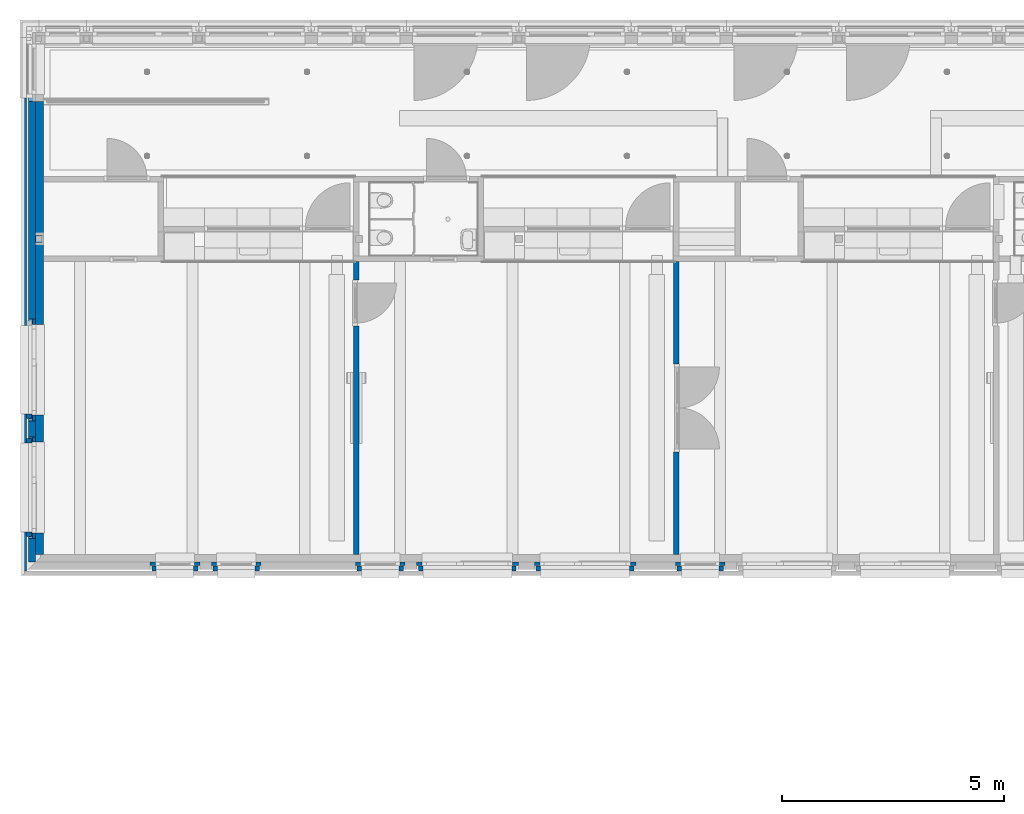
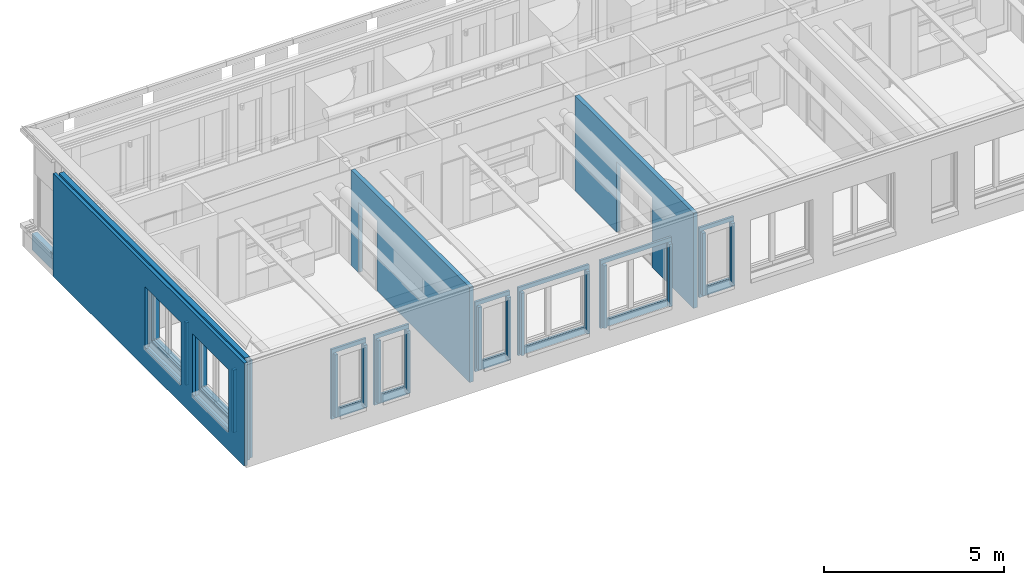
# One storey, part 44 of 128: 28 walls, 19 openings.
"""IFC2X3 building model written with IfcOpenShell, lengths in millimetres."""

import ifcopenshell
import ifcopenshell.guid

model = None  # the IFC model being written
_history = None  # IfcOwnerHistory: only IFC2X3 demands one
_inside = {}  # id of a spatial element -> (the spatial element, [elements in it])
_under = {}  # id of a project, library or spatial element -> (it, [spatial elements below it])
_declared = {}  # id of a project -> (the project, [libraries it declares])
_typed = {}  # id of a type object -> (the type object, [elements of that type])
_made_of = {}  # id of a material, layer set ... -> (it, [elements and type objects made of it])


def new_model(schema):
    """Start an empty IFC model of exactly this schema.

    Asked for "IFC4X3", IfcOpenShell would pick the latest addendum, in which some entities
    have other attributes; the version numbers below select the first issue.
    IFC2X3 requires an IfcOwnerHistory on every rooted entity: one is made here for all.
    """
    global model, _history
    if schema == "IFC4X3":
        model = ifcopenshell.file(schema_version=(4, 3, 0, 0))
    else:
        model = ifcopenshell.file(schema=schema)
    _inside.clear()
    _under.clear()
    _declared.clear()
    _typed.clear()
    _made_of.clear()
    _history = None
    if model.schema == "IFC2X3":
        org = make("IfcOrganization", Name="unknown")
        user = make(
            "IfcPersonAndOrganization",
            ThePerson=make("IfcPerson", FamilyName="unknown"),
            TheOrganization=org,
        )
        app = make(
            "IfcApplication",
            ApplicationDeveloper=org,
            Version="unknown",
            ApplicationFullName="unknown",
            ApplicationIdentifier="unknown",
        )
        _history = make(
            "IfcOwnerHistory",
            OwningUser=user,
            OwningApplication=app,
            ChangeAction="ADDED",
            CreationDate=0,
        )
    return model


def make(cls, **values):
    """One entity of the class cls with the attributes given. An attribute that is None is left unset."""
    return model.create_entity(
        cls, **{name: value for name, value in values.items() if value is not None}
    )


def entity(cls, *values):
    """Any entity or typed value of the class cls, its attributes in the order of the schema. None: left unset."""
    e = model.create_entity(cls)
    for i, value in enumerate(values):
        if value is not None:
            e[i] = value
    return e


def rooted(cls, **values):
    """An entity with a GlobalId (a new one), such as an element, a storey or a relation."""
    return make(cls, GlobalId=ifcopenshell.guid.new(), OwnerHistory=_history, **values)


def si_unit(unit_type, name, prefix=None):
    """IfcSIUnit, for example si_unit("LENGTHUNIT", "METRE", prefix="MILLI")."""
    return make("IfcSIUnit", UnitType=unit_type, Prefix=prefix, Name=name)


def converted_unit(unit_type, name, factor, base, dimensions=None, offset=None):
    """IfcConversionBasedUnit, such as the inch: factor (a typed value) times the base unit."""
    return make(
        "IfcConversionBasedUnit"
        if offset is None
        else "IfcConversionBasedUnitWithOffset",
        ConversionOffset=offset,
        Dimensions=None
        if dimensions is None
        else entity("IfcDimensionalExponents", *dimensions),
        UnitType=unit_type,
        Name=name,
        ConversionFactor=make(
            "IfcMeasureWithUnit", ValueComponent=factor, UnitComponent=base
        ),
    )


def derived_unit(unit_type, elements):
    """IfcDerivedUnit: a product of units, each with its exponent."""
    return make(
        "IfcDerivedUnit",
        Elements=[
            make("IfcDerivedUnitElement", Unit=unit, Exponent=power)
            for unit, power in elements
        ],
        UnitType=unit_type,
    )


def assignment(units):
    """IfcUnitAssignment: the units of a project."""
    return None if units is None else make("IfcUnitAssignment", Units=units)


def point(xyz):
    """IfcCartesianPoint."""
    return None if xyz is None else make("IfcCartesianPoint", Coordinates=xyz)


def direction(xyz):
    """IfcDirection."""
    return None if xyz is None else make("IfcDirection", DirectionRatios=xyz)


def frame(location, z_axis=None, x_axis=None):
    """IfcAxis2Placement3D, a coordinate frame: its origin and axes. An axis left out is left unset."""
    return make(
        "IfcAxis2Placement3D",
        Location=point(location),
        Axis=direction(z_axis),
        RefDirection=direction(x_axis),
    )


def frame_2d(location, x_axis=None):
    """IfcAxis2Placement2D, a coordinate frame in the plane: its origin and x axis."""
    return make(
        "IfcAxis2Placement2D", Location=point(location), RefDirection=direction(x_axis)
    )


def origin():
    """The frame at (0, 0, 0) with its axes left unset."""
    return frame((0.0, 0.0, 0.0))


def origin_2d_with_axis():
    """The frame at (0, 0) in the plane with the x axis (1, 0) written out."""
    return frame_2d((0.0, 0.0), x_axis=(1.0, 0.0))


def place(relative_to, where):
    """IfcLocalPlacement: puts the frame where relative to a parent placement (None: the world)."""
    return make(
        "IfcLocalPlacement", PlacementRelTo=relative_to, RelativePlacement=where
    )


def context(
    kind, dimensions, precision=None, world=None, true_north=None, identifier=None
):
    """IfcGeometricRepresentationContext, for example the 3D "Model" context."""
    return make(
        "IfcGeometricRepresentationContext",
        ContextIdentifier=identifier,
        ContextType=kind,
        CoordinateSpaceDimension=dimensions,
        Precision=precision,
        WorldCoordinateSystem=world,
        TrueNorth=true_north,
    )


def subcontext(parent, identifier, kind, view, scale=None):
    """IfcGeometricRepresentationSubContext, for example "Body" below "Model"."""
    return make(
        "IfcGeometricRepresentationSubContext",
        ContextIdentifier=identifier,
        ContextType=kind,
        ParentContext=parent,
        TargetScale=scale,
        TargetView=view,
    )


def project(units=None, contexts=None):
    """IfcProject with its units and contexts."""
    return rooted(
        "IfcProject",
        Name="project",
        RepresentationContexts=contexts,
        UnitsInContext=assignment(units),
    )


def spatial(cls, under=None, at=None, **own):
    """A site, building, storey or space (cls), placed at a placement, below another one or the project."""
    s = rooted(cls, ObjectPlacement=at, **own)
    if under is not None:
        _under.setdefault(under.id(), (under, []))[1].append(s)
    return s


def profile(cls, at=None, kind="AREA", **sizes):
    """A parametric profile (cls). Its sizes go by their IFC names, for example OverallWidth=200.0."""
    return make(cls, ProfileType=kind, Position=at, **sizes)


def rectangle(**sizes):
    """IfcRectangleProfileDef."""
    return profile("IfcRectangleProfileDef", **sizes)


def extrude(swept, where, along, depth):
    """IfcExtrudedAreaSolid: the profile swept, set in the frame where, extruded along a direction by depth."""
    return make(
        "IfcExtrudedAreaSolid",
        SweptArea=swept,
        Position=where,
        ExtrudedDirection=direction(along),
        Depth=depth,
    )


def shape(context_of_items, identifier, shape_type, items):
    """IfcShapeRepresentation: the items that make up one representation, for example the "Body"."""
    return make(
        "IfcShapeRepresentation",
        ContextOfItems=context_of_items,
        RepresentationIdentifier=identifier,
        RepresentationType=shape_type,
        Items=items,
    )


def material(Name=None, Category=None):
    """IfcMaterial."""
    return make("IfcMaterial", Name=Name, Category=Category)


def layer(
    of_material, thickness, ventilated=None, Name=None, Category=None, Priority=None
):
    """IfcMaterialLayer: one layer of a wall or slab, of a material (None: an air gap)."""
    return make(
        "IfcMaterialLayer",
        Material=of_material,
        LayerThickness=thickness,
        IsVentilated=ventilated,
        Name=Name,
        Category=Category,
        Priority=Priority,
    )


def layer_set(layers, Name=None):
    """IfcMaterialLayerSet."""
    return make("IfcMaterialLayerSet", MaterialLayers=layers, LayerSetName=Name)


def layer_usage(for_layer_set, set_direction, sense, offset, extent=None):
    """IfcMaterialLayerSetUsage: how a layer set lies in its element."""
    return make(
        "IfcMaterialLayerSetUsage",
        ForLayerSet=for_layer_set,
        LayerSetDirection=set_direction,
        DirectionSense=sense,
        OffsetFromReferenceLine=offset,
        ReferenceExtent=extent,
    )


def made_of(thing, what):
    """Note that an element or type object is made of a material, layer set ...; save() writes the relation."""
    if what is not None:
        _made_of.setdefault(what.id(), (what, []))[1].append(thing)
    return thing


def type_object(cls, material=None, **own):
    """A type object (cls), such as IfcWallType, which elements share."""
    return made_of(rooted(cls, **own), material)


def element(
    cls,
    number,
    at=None,
    inside=None,
    cuts=None,
    type_object=None,
    material=None,
    context=None,
    identifier="Body",
    shape_type=None,
    held_by="IfcProductDefinitionShape",
    body=None,
    shapes=None,
    **own,
):
    """One element of the class cls, such as IfcWall. Its Tag is "e" and its number.

    at: its placement. inside: the storey or other place that contains it. cuts: it is an
    opening in that element (IfcRelVoidsElement). A single representation is given by context,
    identifier, shape_type and body (its items); several are given by shapes. held_by: the class
    of the entity that holds the representations. save() writes the other relations.
    """
    e = rooted(cls, Tag="e%d" % number, ObjectPlacement=at, **own)
    if body is not None:
        shapes = [shape(context, identifier, shape_type, body)]
    if shapes is not None:
        e.Representation = make(held_by, Representations=shapes)
    if inside is not None:
        _inside.setdefault(inside.id(), (inside, []))[1].append(e)
    if cuts is not None:
        rooted(
            "IfcRelVoidsElement", RelatingBuildingElement=cuts, RelatedOpeningElement=e
        )
    if type_object is not None:
        _typed.setdefault(type_object.id(), (type_object, []))[1].append(e)
    return made_of(e, material)


def aggregate(whole, parts):
    """IfcRelAggregates: a whole, such as a stair, and the parts it consists of."""
    return rooted("IfcRelAggregates", RelatingObject=whole, RelatedObjects=parts)


def save(model, path):
    """Write the relations noted so far, then the file.

    IfcRelAggregates (storeys below a building ...), IfcRelContainedInSpatialStructure (elements
    in a storey), IfcRelDefinesByType, IfcRelAssociatesMaterial and IfcRelDeclares: one each for
    every whole, place, type object, material and project.
    """
    for whole, parts in _under.values():
        aggregate(whole, parts)
    for where, things in _inside.values():
        rooted(
            "IfcRelContainedInSpatialStructure",
            RelatedElements=things,
            RelatingStructure=where,
        )
    for kind, things in _typed.values():
        rooted("IfcRelDefinesByType", RelatedObjects=things, RelatingType=kind)
    for what, things in _made_of.values():
        rooted("IfcRelAssociatesMaterial", RelatedObjects=things, RelatingMaterial=what)
    for by, libraries in _declared.values():
        rooted("IfcRelDeclares", RelatingContext=by, RelatedDefinitions=libraries)
    model.write(path)


model = new_model("IFC2X3")

# Units and contexts
model_context = context("Model", 3, precision=0.01, world=origin(), true_north=direction((6.123031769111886e-17, 1.0)))
body_context = subcontext(model_context, "Body", "Model", "MODEL_VIEW")
ifc_project = project(units=[si_unit("LENGTHUNIT", "METRE", prefix="MILLI"), si_unit("AREAUNIT", "SQUARE_METRE"), si_unit("VOLUMEUNIT", "CUBIC_METRE"), converted_unit("PLANEANGLEUNIT", "DEGREE", entity("IfcRatioMeasure", 0.017453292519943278), si_unit("PLANEANGLEUNIT", "RADIAN"), dimensions=[0, 0, 0, 0, 0, 0, 0]), si_unit("MASSUNIT", "GRAM", prefix="KILO"), derived_unit("MASSDENSITYUNIT", [(si_unit("MASSUNIT", "GRAM", prefix="KILO"), 1), (si_unit("LENGTHUNIT", "METRE"), -3)]), derived_unit("IONCONCENTRATIONUNIT", [(si_unit("MASSUNIT", "GRAM", prefix="KILO"), 1), (si_unit("LENGTHUNIT", "METRE"), -3)]), derived_unit("MOMENTOFINERTIAUNIT", [(si_unit("LENGTHUNIT", "METRE"), 4)]), si_unit("TIMEUNIT", "SECOND"), si_unit("FREQUENCYUNIT", "HERTZ"), si_unit("THERMODYNAMICTEMPERATUREUNIT", "DEGREE_CELSIUS"), derived_unit("THERMALTRANSMITTANCEUNIT", [(si_unit("MASSUNIT", "GRAM", prefix="KILO"), 1), (si_unit("THERMODYNAMICTEMPERATUREUNIT", "KELVIN"), -1), (si_unit("TIMEUNIT", "SECOND"), -3)]), derived_unit("THERMALCONDUCTANCEUNIT", [(si_unit("MASSUNIT", "GRAM", prefix="KILO"), 1), (si_unit("THERMODYNAMICTEMPERATUREUNIT", "KELVIN"), -1), (si_unit("TIMEUNIT", "SECOND"), -3), (si_unit("LENGTHUNIT", "METRE"), 1)]), derived_unit("VOLUMETRICFLOWRATEUNIT", [(si_unit("LENGTHUNIT", "METRE"), 3), (si_unit("TIMEUNIT", "SECOND"), -1)]), derived_unit("MASSFLOWRATEUNIT", [(si_unit("MASSUNIT", "GRAM", prefix="KILO"), 1), (si_unit("TIMEUNIT", "SECOND"), -1)]), derived_unit("ROTATIONALFREQUENCYUNIT", [(si_unit("TIMEUNIT", "SECOND"), -1)]), si_unit("ELECTRICCURRENTUNIT", "AMPERE"), si_unit("ELECTRICVOLTAGEUNIT", "VOLT"), si_unit("POWERUNIT", "WATT"), si_unit("FORCEUNIT", "NEWTON", prefix="KILO"), si_unit("ILLUMINANCEUNIT", "LUX"), si_unit("LUMINOUSFLUXUNIT", "LUMEN"), si_unit("LUMINOUSINTENSITYUNIT", "CANDELA"), derived_unit("USERDEFINED", [(si_unit("MASSUNIT", "GRAM", prefix="KILO"), -1), (si_unit("LENGTHUNIT", "METRE"), -2), (si_unit("TIMEUNIT", "SECOND"), 3), (si_unit("LUMINOUSFLUXUNIT", "LUMEN"), 1)]), derived_unit("USERDEFINED", [(si_unit("MASSUNIT", "GRAM", prefix="KILO"), 1), (si_unit("TIMEUNIT", "SECOND"), -3), (si_unit("LENGTHUNIT", "METRE"), 3), (si_unit("ELECTRICCURRENTUNIT", "AMPERE"), -2)]), derived_unit("SOUNDPOWERUNIT", [(si_unit("MASSUNIT", "GRAM", prefix="KILO"), 1), (si_unit("TIMEUNIT", "SECOND"), -3), (si_unit("LENGTHUNIT", "METRE"), 2)]), derived_unit("SOUNDPRESSUREUNIT", [(si_unit("MASSUNIT", "GRAM", prefix="KILO"), 1), (si_unit("LENGTHUNIT", "METRE"), -1), (si_unit("TIMEUNIT", "SECOND"), -2)]), derived_unit("LINEARVELOCITYUNIT", [(si_unit("LENGTHUNIT", "METRE"), 1), (si_unit("TIMEUNIT", "SECOND"), -1)]), si_unit("PRESSUREUNIT", "PASCAL"), derived_unit("USERDEFINED", [(si_unit("MASSUNIT", "GRAM", prefix="KILO"), 1), (si_unit("LENGTHUNIT", "METRE"), -2), (si_unit("TIMEUNIT", "SECOND"), -2)]), derived_unit("LINEARFORCEUNIT", [(si_unit("MASSUNIT", "GRAM", prefix="KILO"), 1), (si_unit("TIMEUNIT", "SECOND"), -2)]), derived_unit("PLANARFORCEUNIT", [(si_unit("MASSUNIT", "GRAM", prefix="KILO"), 1), (si_unit("LENGTHUNIT", "METRE"), -1), (si_unit("TIMEUNIT", "SECOND"), -2)]), derived_unit("SPECIFICHEATCAPACITYUNIT", [(si_unit("THERMODYNAMICTEMPERATUREUNIT", "KELVIN"), -1), (si_unit("LENGTHUNIT", "METRE"), 2), (si_unit("TIMEUNIT", "SECOND"), -2)]), derived_unit("HEATINGVALUEUNIT", [(si_unit("LENGTHUNIT", "METRE"), 2), (si_unit("TIMEUNIT", "SECOND"), -2)]), derived_unit("VAPORPERMEABILITYUNIT", [(si_unit("LENGTHUNIT", "METRE"), -1), (si_unit("TIMEUNIT", "SECOND"), 1)]), derived_unit("DYNAMICVISCOSITYUNIT", [(si_unit("MASSUNIT", "GRAM", prefix="KILO"), 1), (si_unit("TIMEUNIT", "SECOND"), -1), (si_unit("LENGTHUNIT", "METRE"), -1)]), derived_unit("THERMALEXPANSIONCOEFFICIENTUNIT", [(si_unit("THERMODYNAMICTEMPERATUREUNIT", "KELVIN"), -1)]), derived_unit("MODULUSOFELASTICITYUNIT", [(si_unit("MASSUNIT", "GRAM", prefix="KILO"), 1), (si_unit("LENGTHUNIT", "METRE"), -1), (si_unit("TIMEUNIT", "SECOND"), -2)]), derived_unit("ISOTHERMALMOISTURECAPACITYUNIT", [(si_unit("LENGTHUNIT", "METRE"), 3), (si_unit("MASSUNIT", "GRAM", prefix="KILO"), -1)]), derived_unit("MOISTUREDIFFUSIVITYUNIT", [(si_unit("TIMEUNIT", "SECOND"), -1), (si_unit("LENGTHUNIT", "METRE"), 2)])], contexts=[model_context])

# Site, building, storey
site_placement = place(None, frame((0.0, 300.0, 0.0)))
site = spatial("IfcSite", under=ifc_project, at=site_placement, Name="<Kadastrale nummers>", CompositionType="ELEMENT")
building_placement = place(site_placement, origin())
building = spatial("IfcBuilding", under=site, at=building_placement, CompositionType="ELEMENT")
storey_placement = place(building_placement, frame((0.0, 0.0, 3560.0000331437)))
storey = spatial("IfcBuildingStorey", under=building, at=storey_placement, Name="01 eerste verdieping", CompositionType="ELEMENT", Elevation=3560.0000331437)

# Wall, openings
ifc_material_1 = material(Name="ISR_Metselwerk")
ifc_layer_1 = layer(ifc_material_1, 100.0)
ifc_layer_set_1 = layer_set([ifc_layer_1], Name="Basic Wall:21_DAT_metselwerk_100")
ifc_layer_usage_1 = layer_usage(ifc_layer_set_1, "AXIS2", "POSITIVE", -50.0)
wall_type_1 = type_object("IfcWallType", Name="Basic Wall:21_DAT_metselwerk_100", PredefinedType="STANDARD", material=ifc_layer_set_1)
wall_1_placement = place(storey_placement, frame((2675.0, 48465.0, 90.00000187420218), z_axis=(0.0, 0.0, 1.0), x_axis=(0.0, -1.0, 0.0)))
wall_1 = element("IfcWallStandardCase", 1, at=wall_1_placement, inside=storey, type_object=wall_type_1, material=ifc_layer_usage_1, Name="Basic Wall:21_DAT_metselwerk_100", ObjectType="Basic Wall:21_DAT_metselwerk_100", context=body_context, shape_type="SweptSolid", body=[
    extrude(rectangle(XDim=10640.000000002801, YDim=100.0, at=frame_2d((5320.000000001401, 1.3855583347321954e-13), x_axis=(-1.0, 0.0))), origin(), (0.0, 0.0, 1.0), 3499.9999999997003),
])
opening_1_placement = place(wall_1_placement, frame((48465.0, -2675.0, -90.0000018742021), z_axis=(0.0, 0.0, 1.0), x_axis=(0.0, 1.0, 0.0)))
element("IfcOpeningElement", 2, at=opening_1_placement, cuts=wall_1, Name="Basic Wall:21_DAT_metselwerk_100", ObjectType="Opening", context=body_context, shape_type="SweptSolid", body=[
    extrude(rectangle(XDim=2124.999999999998, YDim=1999.999999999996, at=frame_2d((5.684341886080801e-13, 0.0), x_axis=(1.0, 0.0))), frame((2625.0, 39705.0, 1777.5000018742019), z_axis=(1.0, 0.0, 0.0), x_axis=(0.0, 0.0, -1.0)), (0.0, 0.0, 1.0), 100.00000000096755),
])
opening_2_placement = place(wall_1_placement, frame((48465.0, -2675.0, -90.0000018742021), z_axis=(0.0, 0.0, 1.0), x_axis=(0.0, 1.0, 0.0)))
element("IfcOpeningElement", 3, at=opening_2_placement, cuts=wall_1, Name="Basic Wall:21_DAT_metselwerk_100", ObjectType="Opening", context=body_context, shape_type="SweptSolid", body=[
    extrude(rectangle(XDim=2124.999999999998, YDim=1999.999999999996, at=frame_2d((5.684341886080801e-13, 0.0), x_axis=(1.0, 0.0))), frame((2625.0, 42355.0, 1777.5000018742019), z_axis=(1.0, 0.0, 0.0), x_axis=(0.0, 0.0, -1.0)), (0.0, 0.0, 1.0), 100.00000000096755),
])

# Walls
ifc_layer_usage_2 = layer_usage(ifc_layer_set_1, "AXIS2", "NEGATIVE", 50.0)
wall_2_placement = place(storey_placement, frame((11150.0, 37825.0, 715.0000018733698), z_axis=(0.0, 0.0, 1.0), x_axis=(0.0, 1.0, 0.0)))
element("IfcWallStandardCase", 4, at=wall_2_placement, inside=storey, type_object=wall_type_1, material=ifc_layer_usage_2, Name="Basic Wall:21_DAT_metselwerk_100", ObjectType="Basic Wall:21_DAT_metselwerk_100", context=body_context, shape_type="SweptSolid", body=[
    extrude(rectangle(XDim=110.00000000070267, YDim=99.99999999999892, at=frame_2d((55.000000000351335, -7.815970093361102e-14), x_axis=(-1.0, 0.0))), origin(), (0.0, 0.0, 1.0), 2125.0000000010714),
])
wall_3_placement = place(storey_placement, frame((10210.0, 37825.0, 715.0000018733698), z_axis=(0.0, 0.0, 1.0), x_axis=(0.0, 1.0, 0.0)))
element("IfcWallStandardCase", 5, at=wall_3_placement, inside=storey, type_object=wall_type_1, material=ifc_layer_usage_1, Name="Basic Wall:21_DAT_metselwerk_100", ObjectType="Basic Wall:21_DAT_metselwerk_100", context=body_context, shape_type="SweptSolid", body=[
    extrude(rectangle(XDim=110.00000000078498, YDim=99.99999999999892, at=frame_2d((55.00000000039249, -7.815970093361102e-14), x_axis=(-1.0, 0.0))), origin(), (0.0, 0.0, 1.0), 2125.0000000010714),
])
wall_4_placement = place(storey_placement, frame((18350.0, 37825.0, 715.0000018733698), z_axis=(0.0, 0.0, 1.0), x_axis=(0.0, 1.0, 0.0)))
element("IfcWallStandardCase", 6, at=wall_4_placement, inside=storey, type_object=wall_type_1, material=ifc_layer_usage_2, Name="Basic Wall:21_DAT_metselwerk_100", ObjectType="Basic Wall:21_DAT_metselwerk_100", context=body_context, shape_type="SweptSolid", body=[
    extrude(rectangle(XDim=110.000000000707, YDim=99.99999999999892, at=frame_2d((55.0000000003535, -7.815970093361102e-14), x_axis=(-1.0, 0.0))), origin(), (0.0, 0.0, 1.0), 2125.0000000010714),
])
wall_5_placement = place(storey_placement, frame((17410.0, 37825.0, 715.0000018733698), z_axis=(0.0, 0.0, 1.0), x_axis=(0.0, 1.0, 0.0)))
element("IfcWallStandardCase", 7, at=wall_5_placement, inside=storey, type_object=wall_type_1, material=ifc_layer_usage_1, Name="Basic Wall:21_DAT_metselwerk_100", ObjectType="Basic Wall:21_DAT_metselwerk_100", context=body_context, shape_type="SweptSolid", body=[
    extrude(rectangle(XDim=110.00000000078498, YDim=99.99999999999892, at=frame_2d((55.00000000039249, -7.815970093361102e-14), x_axis=(-1.0, 0.0))), origin(), (0.0, 0.0, 1.0), 2125.0000000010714),
])
wall_6_placement = place(storey_placement, frame((7910.0, 37825.0, 715.0000018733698), z_axis=(0.0, 0.0, 1.0), x_axis=(0.0, 1.0, 0.0)))
element("IfcWallStandardCase", 8, at=wall_6_placement, inside=storey, type_object=wall_type_1, material=ifc_layer_usage_2, Name="Basic Wall:21_DAT_metselwerk_100", ObjectType="Basic Wall:21_DAT_metselwerk_100", context=body_context, shape_type="SweptSolid", body=[
    extrude(rectangle(XDim=110.000000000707, YDim=99.99999999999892, at=frame_2d((55.0000000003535, -7.815970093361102e-14), x_axis=(-1.0, 0.0))), origin(), (0.0, 0.0, 1.0), 2125.0000000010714),
])
wall_7_placement = place(storey_placement, frame((6970.0, 37825.0, 715.0000018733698), z_axis=(0.0, 0.0, 1.0), x_axis=(0.0, 1.0, 0.0)))
element("IfcWallStandardCase", 9, at=wall_7_placement, inside=storey, type_object=wall_type_1, material=ifc_layer_usage_1, Name="Basic Wall:21_DAT_metselwerk_100", ObjectType="Basic Wall:21_DAT_metselwerk_100", context=body_context, shape_type="SweptSolid", body=[
    extrude(rectangle(XDim=110.00000000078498, YDim=99.99999999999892, at=frame_2d((55.00000000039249, -7.815970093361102e-14), x_axis=(-1.0, 0.0))), origin(), (0.0, 0.0, 1.0), 2125.0000000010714),
])
wall_8_placement = place(storey_placement, frame((6530.0, 37825.0, 715.0000018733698), z_axis=(0.0, 0.0, 1.0), x_axis=(0.0, 1.0, 0.0)))
element("IfcWallStandardCase", 10, at=wall_8_placement, inside=storey, type_object=wall_type_1, material=ifc_layer_usage_2, Name="Basic Wall:21_DAT_metselwerk_100", ObjectType="Basic Wall:21_DAT_metselwerk_100", context=body_context, shape_type="SweptSolid", body=[
    extrude(rectangle(XDim=110.000000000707, YDim=99.99999999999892, at=frame_2d((55.0000000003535, -7.815970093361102e-14), x_axis=(-1.0, 0.0))), origin(), (0.0, 0.0, 1.0), 2125.0000000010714),
])
wall_9_placement = place(storey_placement, frame((5590.0, 37825.0, 715.0000018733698), z_axis=(0.0, 0.0, 1.0), x_axis=(0.0, 1.0, 0.0)))
element("IfcWallStandardCase", 11, at=wall_9_placement, inside=storey, type_object=wall_type_1, material=ifc_layer_usage_1, Name="Basic Wall:21_DAT_metselwerk_100", ObjectType="Basic Wall:21_DAT_metselwerk_100", context=body_context, shape_type="SweptSolid", body=[
    extrude(rectangle(XDim=110.00000000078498, YDim=99.99999999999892, at=frame_2d((55.00000000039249, -7.815970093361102e-14), x_axis=(-1.0, 0.0))), origin(), (0.0, 0.0, 1.0), 2125.0000000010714),
])
wall_10_placement = place(storey_placement, frame((16340.0, 37825.0, 715.0000018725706), z_axis=(0.0, 0.0, 1.0), x_axis=(0.0, 1.0, 0.0)))
element("IfcWallStandardCase", 12, at=wall_10_placement, inside=storey, type_object=wall_type_1, material=ifc_layer_usage_2, Name="Basic Wall:21_DAT_metselwerk_100", ObjectType="Basic Wall:21_DAT_metselwerk_100", context=body_context, shape_type="SweptSolid", body=[
    extrude(rectangle(XDim=109.99999999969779, YDim=99.99999999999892, at=frame_2d((54.999999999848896, 2.4513724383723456e-13), x_axis=(-1.0, 0.0))), origin(), (0.0, 0.0, 1.0), 2125.0000000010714),
])
wall_11_placement = place(storey_placement, frame((14240.0, 37825.0, 715.0000018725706), z_axis=(0.0, 0.0, 1.0), x_axis=(0.0, 1.0, 0.0)))
element("IfcWallStandardCase", 13, at=wall_11_placement, inside=storey, type_object=wall_type_1, material=ifc_layer_usage_1, Name="Basic Wall:21_DAT_metselwerk_100", ObjectType="Basic Wall:21_DAT_metselwerk_100", context=body_context, shape_type="SweptSolid", body=[
    extrude(rectangle(XDim=109.99999999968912, YDim=99.99999999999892, at=frame_2d((54.99999999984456, 6.998845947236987e-13), x_axis=(-1.0, 0.0))), origin(), (0.0, 0.0, 1.0), 2125.0000000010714),
])
wall_12_placement = place(storey_placement, frame((13690.0, 37825.0, 715.0000018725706), z_axis=(0.0, 0.0, 1.0), x_axis=(0.0, 1.0, 0.0)))
element("IfcWallStandardCase", 14, at=wall_12_placement, inside=storey, type_object=wall_type_1, material=ifc_layer_usage_2, Name="Basic Wall:21_DAT_metselwerk_100", ObjectType="Basic Wall:21_DAT_metselwerk_100", context=body_context, shape_type="SweptSolid", body=[
    extrude(rectangle(XDim=109.99999999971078, YDim=99.99999999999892, at=frame_2d((54.99999999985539, 2.4513724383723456e-13), x_axis=(-1.0, 0.0))), origin(), (0.0, 0.0, 1.0), 2125.0000000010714),
])
wall_13_placement = place(storey_placement, frame((11590.0, 37825.0, 715.0000018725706), z_axis=(0.0, 0.0, 1.0), x_axis=(0.0, 1.0, 0.0)))
element("IfcWallStandardCase", 15, at=wall_13_placement, inside=storey, type_object=wall_type_1, material=ifc_layer_usage_1, Name="Basic Wall:21_DAT_metselwerk_100", ObjectType="Basic Wall:21_DAT_metselwerk_100", context=body_context, shape_type="SweptSolid", body=[
    extrude(rectangle(XDim=109.99999999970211, YDim=99.99999999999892, at=frame_2d((54.999999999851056, 6.998845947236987e-13), x_axis=(-1.0, 0.0))), origin(), (0.0, 0.0, 1.0), 2125.0000000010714),
])
wall_14_placement = place(storey_placement, frame((2725.0, 38655.0, 715.0000018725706)))
element("IfcWallStandardCase", 16, at=wall_14_placement, inside=storey, type_object=wall_type_1, material=ifc_layer_usage_2, Name="Basic Wall:21_DAT_metselwerk_100", ObjectType="Basic Wall:21_DAT_metselwerk_100", context=body_context, shape_type="SweptSolid", body=[
    extrude(rectangle(XDim=109.99999999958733, YDim=100.00000000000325, at=frame_2d((54.999999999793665, -1.7053025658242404e-13), x_axis=(-1.0, 0.0))), origin(), (0.0, 0.0, 1.0), 2125.0000000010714),
])
wall_15_placement = place(storey_placement, frame((2725.0, 40755.0, 715.0000018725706)))
element("IfcWallStandardCase", 17, at=wall_15_placement, inside=storey, type_object=wall_type_1, material=ifc_layer_usage_1, Name="Basic Wall:21_DAT_metselwerk_100", ObjectType="Basic Wall:21_DAT_metselwerk_100", context=body_context, shape_type="SweptSolid", body=[
    extrude(rectangle(XDim=109.99999999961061, YDim=99.99999999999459, at=frame_2d((54.999999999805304, -7.993605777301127e-13), x_axis=(-1.0, 0.0))), origin(), (0.0, 0.0, 1.0), 2125.0000000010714),
])
wall_16_placement = place(storey_placement, frame((2725.0, 41305.0, 715.0000018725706)))
element("IfcWallStandardCase", 18, at=wall_16_placement, inside=storey, type_object=wall_type_1, material=ifc_layer_usage_2, Name="Basic Wall:21_DAT_metselwerk_100", ObjectType="Basic Wall:21_DAT_metselwerk_100", context=body_context, shape_type="SweptSolid", body=[
    extrude(rectangle(XDim=109.99999999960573, YDim=99.9999999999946, at=frame_2d((54.99999999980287, -2.334132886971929e-12), x_axis=(-1.0, 0.0))), origin(), (0.0, 0.0, 1.0), 2125.0000000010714),
])

# Wall, opening
ifc_material_2 = material(Name="ISR_Gips")
ifc_layer_2 = layer(ifc_material_2, 1.0)
ifc_material_3 = material(Name="ISR_Binnenwand")
ifc_layer_3 = layer(ifc_material_3, 123.0)
ifc_layer_4 = layer(ifc_material_2, 1.0)
ifc_layer_set_2 = layer_set([ifc_layer_2, ifc_layer_3, ifc_layer_4], Name="Basic Wall:22_DAT_binnenwand_125")
ifc_layer_usage_3 = layer_usage(ifc_layer_set_2, "AXIS2", "NEGATIVE", 62.50000000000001)
wall_type_2 = type_object("IfcWallType", Name="Basic Wall:22_DAT_binnenwand_125", PredefinedType="STANDARD", material=ifc_layer_set_2)
wall_17_placement = place(storey_placement, frame((10142.500000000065, 38200.0, 90.00000187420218), z_axis=(0.0, 0.0, 1.0), x_axis=(0.0, 1.0, 0.0)))
wall_17 = element("IfcWallStandardCase", 19, at=wall_17_placement, inside=storey, type_object=wall_type_2, material=ifc_layer_usage_3, Name="Basic Wall:22_DAT_binnenwand_125", ObjectType="Basic Wall:22_DAT_binnenwand_125", context=body_context, shape_type="SweptSolid", body=[
    extrude(rectangle(XDim=6590.0000000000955, YDim=125.0000000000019, at=frame_2d((3295.0000000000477, -7.105427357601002e-15), x_axis=(-1.0, 0.0))), origin(), (0.0, 0.0, 1.0), 3239.9999999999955),
])
opening_3_placement = place(wall_17_placement, origin())
element("IfcOpeningElement", 20, at=opening_3_placement, cuts=wall_17, Name="Basic Wall:22_DAT_binnenwand_125", ObjectType="Opening", context=body_context, shape_type="SweptSolid", body=[
    extrude(rectangle(XDim=2390.0000000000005, YDim=1034.0000000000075, at=origin_2d_with_axis()), frame((5658.0, -214.89999999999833, 1195.0), z_axis=(0.0, 1.0, 0.0), x_axis=(0.0, 0.0, 1.0)), (0.0, 0.0, 1.0), 429.7999999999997),
])

wall_18_placement = place(storey_placement, frame((17342.50000000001, 38200.0, 90.00000187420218), z_axis=(0.0, 0.0, 1.0), x_axis=(0.0, 1.0, 0.0)))
wall_18 = element("IfcWallStandardCase", 21, at=wall_18_placement, inside=storey, type_object=wall_type_2, material=ifc_layer_usage_3, Name="Basic Wall:22_DAT_binnenwand_125", ObjectType="Basic Wall:22_DAT_binnenwand_125", context=body_context, shape_type="SweptSolid", body=[
    extrude(rectangle(XDim=6590.000000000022, YDim=125.0000000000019, at=frame_2d((3295.000000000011, -7.105427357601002e-15), x_axis=(-1.0, 0.0))), origin(), (0.0, 0.0, 1.0), 3239.9999999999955),
])
opening_4_placement = place(wall_18_placement, origin())
element("IfcOpeningElement", 22, at=opening_4_placement, cuts=wall_18, Name="Basic Wall:22_DAT_binnenwand_125", ObjectType="Opening", context=body_context, shape_type="SweptSolid", body=[
    extrude(rectangle(XDim=2390.0000000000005, YDim=1979.9999999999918, at=frame_2d((0.0, 4.376943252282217e-12), x_axis=(1.0, 0.0))), frame((3295.0, -214.89999999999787, 1195.0), z_axis=(0.0, 1.0, 0.0), x_axis=(0.0, 0.0, 1.0)), (0.0, 0.0, 1.0), 429.7999999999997),
])

# Wall, openings
ifc_layer_5 = layer(ifc_material_2, 1.0)
ifc_material_4 = material(Name="ISR_Kalkzandsteen")
ifc_layer_6 = layer(ifc_material_4, 173.0)
ifc_layer_7 = layer(ifc_material_2, 1.0)
ifc_layer_set_3 = layer_set([ifc_layer_5, ifc_layer_6, ifc_layer_7], Name="Basic Wall:28_DAT_kalkzandsteen_175mm")
ifc_layer_usage_4 = layer_usage(ifc_layer_set_3, "AXIS2", "NEGATIVE", 87.49999999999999)
wall_type_3 = type_object("IfcWallType", Name="Basic Wall:28_DAT_kalkzandsteen_175mm", PredefinedType="STANDARD", material=ifc_layer_set_3)
wall_19_placement = place(storey_placement, frame((3012.5000000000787, 48395.0, 0.0), z_axis=(0.0, 0.0, 1.0), x_axis=(0.0, -1.0, 0.0)))
wall_19 = element("IfcWallStandardCase", 23, at=wall_19_placement, inside=storey, type_object=wall_type_3, material=ifc_layer_usage_4, Name="Basic Wall:28_DAT_kalkzandsteen_175mm", ObjectType="Basic Wall:28_DAT_kalkzandsteen_175mm", context=body_context, shape_type="SweptSolid", body=[
    extrude(rectangle(XDim=10195.000000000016, YDim=175.00000000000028, at=frame_2d((5097.500000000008, -7.105427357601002e-14), x_axis=(-1.0, 0.0))), origin(), (0.0, 0.0, 1.0), 3330.000001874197),
])
opening_5_placement = place(wall_19_placement, origin())
element("IfcOpeningElement", 24, at=opening_5_placement, cuts=wall_19, Name="Basic Wall:28_DAT_kalkzandsteen_175mm", ObjectType="Opening", context=body_context, shape_type="SweptSolid", body=[
    extrude(rectangle(XDim=1930.000000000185, YDim=2039.9999999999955, at=frame_2d((0.0, 4.320099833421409e-12), x_axis=(1.0, 0.0))), frame((6040.0, -239.89999999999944, 1865.0), z_axis=(0.0, 1.0, 0.0), x_axis=(0.0, 0.0, 1.0)), (0.0, 0.0, 1.0), 479.7999999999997),
])
opening_6_placement = place(wall_19_placement, origin())
element("IfcOpeningElement", 25, at=opening_6_placement, cuts=wall_19, Name="Basic Wall:28_DAT_kalkzandsteen_175mm", ObjectType="Opening", context=body_context, shape_type="SweptSolid", body=[
    extrude(rectangle(XDim=1930.000000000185, YDim=2039.9999999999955, at=frame_2d((0.0, 4.320099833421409e-12), x_axis=(1.0, 0.0))), frame((8690.0, -239.89999999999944, 1865.0), z_axis=(0.0, 1.0, 0.0), x_axis=(0.0, 0.0, 1.0)), (0.0, 0.0, 1.0), 479.7999999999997),
])
opening_7_placement = place(wall_19_placement, origin())
element("IfcOpeningElement", 26, at=opening_7_placement, cuts=wall_19, Name="Basic Wall:28_DAT_kalkzandsteen_175mm", ObjectType="Opening", context=body_context, shape_type="SweptSolid", body=[
    extrude(rectangle(XDim=3310.0000290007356, YDim=159.99999999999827, at=origin_2d_with_axis()), frame((3095.0, -239.89999999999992, 1675.0000163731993), z_axis=(0.0, 1.0, 0.0), x_axis=(0.0, 0.0, 1.0)), (0.0, 0.0, 1.0), 479.7999999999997),
])

ifc_material_5 = material(Name="ISR_Isolatie")
ifc_layer_8 = layer(ifc_material_5, 160.0)
ifc_layer_set_4 = layer_set([ifc_layer_8], Name="Basic Wall:21_DAT_isolatie minerale wol_160")
ifc_layer_usage_5 = layer_usage(ifc_layer_set_4, "AXIS2", "NEGATIVE", 80.0)
wall_type_4 = type_object("IfcWallType", Name="Basic Wall:21_DAT_isolatie minerale wol_160", PredefinedType="STANDARD", material=ifc_layer_set_4)
wall_20_placement = place(storey_placement, frame((2845.0, 38025.0, 90.00000187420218), z_axis=(0.0, 0.0, 1.0), x_axis=(0.0, 1.0, 0.0)))
wall_20 = element("IfcWallStandardCase", 27, at=wall_20_placement, inside=storey, type_object=wall_type_4, material=ifc_layer_usage_5, Name="Basic Wall:21_DAT_isolatie minerale wol_160", ObjectType="Basic Wall:21_DAT_isolatie minerale wol_160", context=body_context, shape_type="SweptSolid", body=[
    extrude(rectangle(XDim=11850.000000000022, YDim=160.00000000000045, at=frame_2d((5925.000000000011, 7.105427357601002e-15), x_axis=(-1.0, 0.0))), origin(), (0.0, 0.0, 1.0), 3499.9999999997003),
])
opening_8_placement = place(wall_20_placement, origin())
element("IfcOpeningElement", 28, at=opening_8_placement, cuts=wall_20, Name="Basic Wall:21_DAT_isolatie minerale wol_160", ObjectType="Opening", context=body_context, shape_type="SweptSolid", body=[
    extrude(rectangle(XDim=1929.9999999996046, YDim=1144.9999999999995, at=origin_2d_with_axis()), frame((11092.500000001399, -232.39999999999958, 1774.9999649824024), z_axis=(0.0, 1.0, 0.0), x_axis=(0.0, 0.0, 1.0)), (0.0, 0.0, 1.0), 464.7999999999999),
])
opening_9_placement = place(wall_20_placement, origin())
element("IfcOpeningElement", 29, at=opening_9_placement, cuts=wall_20, Name="Basic Wall:21_DAT_isolatie minerale wol_160", ObjectType="Opening", context=body_context, shape_type="SweptSolid", body=[
    extrude(rectangle(XDim=3424.999964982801, YDim=1549.9999999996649, at=frame_2d((-2.2737367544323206e-13, 0.0), x_axis=(1.0, 0.0))), frame((11145.0, -232.3999999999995, 2274.9999824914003), z_axis=(0.0, 1.0, 0.0), x_axis=(0.0, 0.0, 1.0)), (0.0, 0.0, 1.0), 464.7999999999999),
])
opening_10_placement = place(wall_20_placement, origin())
element("IfcOpeningElement", 30, at=opening_10_placement, cuts=wall_20, Name="Basic Wall:21_DAT_isolatie minerale wol_160", ObjectType="Opening", context=body_context, shape_type="SweptSolid", body=[
    extrude(rectangle(XDim=2312.5000000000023, YDim=2290.0000000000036, at=frame_2d((2.1600499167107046e-12, 2.2737367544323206e-13), x_axis=(0.0, 1.0))), frame((1675.0, -232.3999999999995, 1718.7499999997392), z_axis=(0.0, 1.0, 0.0), x_axis=(-1.0, 0.0, 0.0)), (0.0, 0.0, 1.0), 464.7999999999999),
])
opening_11_placement = place(wall_20_placement, origin())
element("IfcOpeningElement", 31, at=opening_11_placement, cuts=wall_20, Name="Basic Wall:21_DAT_isolatie minerale wol_160", ObjectType="Opening", context=body_context, shape_type="SweptSolid", body=[
    extrude(rectangle(XDim=2312.5000000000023, YDim=2290.0000000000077, at=frame_2d((-4.320099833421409e-12, 2.2737367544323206e-13), x_axis=(0.0, 1.0))), frame((4325.0, -232.39999999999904, 1718.7499999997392), z_axis=(0.0, 1.0, 0.0), x_axis=(-1.0, 0.0, 0.0)), (0.0, 0.0, 1.0), 464.7999999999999),
])

# Wall, opening
ifc_layer_9 = layer(ifc_material_5, 70.0)
ifc_layer_set_5 = layer_set([ifc_layer_9], Name="Basic Wall:21_DAT_isolatie hard_74")
ifc_layer_usage_6 = layer_usage(ifc_layer_set_5, "AXIS2", "POSITIVE", -35.0)
wall_type_5 = type_object("IfcWallType", Name="Basic Wall:21_DAT_isolatie hard_74", PredefinedType="STANDARD", material=ifc_layer_set_5)
wall_21_placement = place(storey_placement, frame((10120.0, 37990.0, 589.9999668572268)))
wall_21 = element("IfcWallStandardCase", 32, at=wall_21_placement, inside=storey, type_object=wall_type_5, material=ifc_layer_usage_6, Name="Basic Wall:21_DAT_isolatie hard_74", ObjectType="Basic Wall:21_DAT_isolatie hard_74", context=body_context, shape_type="SweptSolid", body=[
    extrude(rectangle(XDim=1119.9999999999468, YDim=70.00000000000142, at=frame_2d((559.9999999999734, -7.993605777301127e-13), x_axis=(-1.0, 0.0))), origin(), (0.0, 0.0, 1.0), 2375.000035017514),
])
opening_12_placement = place(wall_21_placement, origin())
element("IfcOpeningElement", 33, at=opening_12_placement, cuts=wall_21, Name="Basic Wall:21_DAT_isolatie hard_74", ObjectType="Opening", context=body_context, shape_type="SweptSolid", body=[
    extrude(rectangle(XDim=1929.9999999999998, YDim=879.9999999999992, at=frame_2d((5.684341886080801e-13, 0.0), x_axis=(1.0, 0.0))), frame((560.0, -187.40000000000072, 1275.0000350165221), z_axis=(0.0, 1.0, 0.0), x_axis=(0.0, 0.0, 1.0)), (0.0, 0.0, 1.0), 374.80000000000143),
])

wall_22_placement = place(storey_placement, frame((17320.0, 37990.0, 589.9999668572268)))
wall_22 = element("IfcWallStandardCase", 34, at=wall_22_placement, inside=storey, type_object=wall_type_5, material=ifc_layer_usage_6, Name="Basic Wall:21_DAT_isolatie hard_74", ObjectType="Basic Wall:21_DAT_isolatie hard_74", context=body_context, shape_type="SweptSolid", body=[
    extrude(rectangle(XDim=1119.9999999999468, YDim=70.00000000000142, at=frame_2d((559.9999999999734, -7.993605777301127e-13), x_axis=(-1.0, 0.0))), origin(), (0.0, 0.0, 1.0), 2375.000035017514),
])
opening_13_placement = place(wall_22_placement, origin())
element("IfcOpeningElement", 35, at=opening_13_placement, cuts=wall_22, Name="Basic Wall:21_DAT_isolatie hard_74", ObjectType="Opening", context=body_context, shape_type="SweptSolid", body=[
    extrude(rectangle(XDim=1929.9999999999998, YDim=879.9999999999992, at=frame_2d((5.684341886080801e-13, 0.0), x_axis=(1.0, 0.0))), frame((560.0, -187.40000000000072, 1275.0000350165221), z_axis=(0.0, 1.0, 0.0), x_axis=(0.0, 0.0, 1.0)), (0.0, 0.0, 1.0), 374.80000000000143),
])

wall_23_placement = place(storey_placement, frame((6880.0, 37990.0, 589.9999668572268)))
wall_23 = element("IfcWallStandardCase", 36, at=wall_23_placement, inside=storey, type_object=wall_type_5, material=ifc_layer_usage_6, Name="Basic Wall:21_DAT_isolatie hard_74", ObjectType="Basic Wall:21_DAT_isolatie hard_74", context=body_context, shape_type="SweptSolid", body=[
    extrude(rectangle(XDim=1119.9999999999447, YDim=70.00000000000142, at=frame_2d((559.9999999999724, -8.029132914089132e-13), x_axis=(-1.0, 0.0))), origin(), (0.0, 0.0, 1.0), 2375.000035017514),
])
opening_14_placement = place(wall_23_placement, origin())
element("IfcOpeningElement", 37, at=opening_14_placement, cuts=wall_23, Name="Basic Wall:21_DAT_isolatie hard_74", ObjectType="Opening", context=body_context, shape_type="SweptSolid", body=[
    extrude(rectangle(XDim=1929.9999999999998, YDim=879.9999999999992, at=frame_2d((5.684341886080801e-13, 0.0), x_axis=(1.0, 0.0))), frame((560.0, -187.40000000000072, 1275.0000350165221), z_axis=(0.0, 1.0, 0.0), x_axis=(0.0, 0.0, 1.0)), (0.0, 0.0, 1.0), 374.80000000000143),
])

wall_24_placement = place(storey_placement, frame((5500.0, 37990.0, 589.9999668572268)))
wall_24 = element("IfcWallStandardCase", 38, at=wall_24_placement, inside=storey, type_object=wall_type_5, material=ifc_layer_usage_6, Name="Basic Wall:21_DAT_isolatie hard_74", ObjectType="Basic Wall:21_DAT_isolatie hard_74", context=body_context, shape_type="SweptSolid", body=[
    extrude(rectangle(XDim=1119.9999999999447, YDim=70.00000000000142, at=frame_2d((559.9999999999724, -8.029132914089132e-13), x_axis=(-1.0, 0.0))), origin(), (0.0, 0.0, 1.0), 2375.000035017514),
])
opening_15_placement = place(wall_24_placement, origin())
element("IfcOpeningElement", 39, at=opening_15_placement, cuts=wall_24, Name="Basic Wall:21_DAT_isolatie hard_74", ObjectType="Opening", context=body_context, shape_type="SweptSolid", body=[
    extrude(rectangle(XDim=1929.9999999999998, YDim=879.9999999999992, at=frame_2d((5.684341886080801e-13, 0.0), x_axis=(1.0, 0.0))), frame((560.0, -187.40000000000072, 1275.0000350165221), z_axis=(0.0, 1.0, 0.0), x_axis=(0.0, 0.0, 1.0)), (0.0, 0.0, 1.0), 374.80000000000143),
])

wall_25_placement = place(storey_placement, frame((14150.0, 37990.0, 652.50000187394)))
wall_25 = element("IfcWallStandardCase", 40, at=wall_25_placement, inside=storey, type_object=wall_type_5, material=ifc_layer_usage_6, Name="Basic Wall:21_DAT_isolatie hard_74", ObjectType="Basic Wall:21_DAT_isolatie hard_74", context=body_context, shape_type="SweptSolid", body=[
    extrude(rectangle(XDim=2289.999999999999, YDim=70.0000000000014, at=frame_2d((1144.9999999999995, -1.751487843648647e-12), x_axis=(-1.0, 0.0))), origin(), (0.0, 0.0, 1.0), 2312.5000000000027),
])
opening_16_placement = place(wall_25_placement, origin())
element("IfcOpeningElement", 41, at=opening_16_placement, cuts=wall_25, Name="Basic Wall:21_DAT_isolatie hard_74", ObjectType="Opening", context=body_context, shape_type="SweptSolid", body=[
    extrude(rectangle(XDim=1930.000000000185, YDim=2039.9999999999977, at=frame_2d((0.0, -1.0800249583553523e-12), x_axis=(1.0, 0.0))), frame((1140.0, -187.40000000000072, 1212.499999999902), z_axis=(0.0, 1.0, 0.0), x_axis=(0.0, 0.0, 1.0)), (0.0, 0.0, 1.0), 374.80000000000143),
])

wall_26_placement = place(storey_placement, frame((11500.0, 37990.0, 652.50000187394)))
wall_26 = element("IfcWallStandardCase", 42, at=wall_26_placement, inside=storey, type_object=wall_type_5, material=ifc_layer_usage_6, Name="Basic Wall:21_DAT_isolatie hard_74", ObjectType="Basic Wall:21_DAT_isolatie hard_74", context=body_context, shape_type="SweptSolid", body=[
    extrude(rectangle(XDim=2289.999999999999, YDim=70.0000000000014, at=frame_2d((1144.9999999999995, -1.751487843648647e-12), x_axis=(-1.0, 0.0))), origin(), (0.0, 0.0, 1.0), 2312.5000000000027),
])
opening_17_placement = place(wall_26_placement, origin())
element("IfcOpeningElement", 43, at=opening_17_placement, cuts=wall_26, Name="Basic Wall:21_DAT_isolatie hard_74", ObjectType="Opening", context=body_context, shape_type="SweptSolid", body=[
    extrude(rectangle(XDim=1930.000000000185, YDim=2039.9999999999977, at=frame_2d((0.0, -1.0800249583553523e-12), x_axis=(1.0, 0.0))), frame((1140.0, -187.40000000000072, 1212.499999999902), z_axis=(0.0, 1.0, 0.0), x_axis=(0.0, 0.0, 1.0)), (0.0, 0.0, 1.0), 374.80000000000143),
])

wall_27_placement = place(storey_placement, frame((2890.0, 40845.0, 652.50000187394), z_axis=(0.0, 0.0, 1.0), x_axis=(0.0, -1.0, 0.0)))
wall_27 = element("IfcWallStandardCase", 44, at=wall_27_placement, inside=storey, type_object=wall_type_5, material=ifc_layer_usage_6, Name="Basic Wall:21_DAT_isolatie hard_74", ObjectType="Basic Wall:21_DAT_isolatie hard_74", context=body_context, shape_type="SweptSolid", body=[
    extrude(rectangle(XDim=2290.0000000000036, YDim=70.00000000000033, at=frame_2d((1145.0000000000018, -3.907985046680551e-14), x_axis=(-1.0, 0.0))), origin(), (0.0, 0.0, 1.0), 2312.5000000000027),
])
opening_18_placement = place(wall_27_placement, origin())
element("IfcOpeningElement", 45, at=opening_18_placement, cuts=wall_27, Name="Basic Wall:21_DAT_isolatie hard_74", ObjectType="Opening", context=body_context, shape_type="SweptSolid", body=[
    extrude(rectangle(XDim=1930.000000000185, YDim=2039.9999999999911, at=frame_2d((0.0, 2.1600499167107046e-12), x_axis=(1.0, 0.0))), frame((1140.0, -187.3999999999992, 1212.499999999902), z_axis=(0.0, 1.0, 0.0), x_axis=(0.0, 0.0, 1.0)), (0.0, 0.0, 1.0), 374.7999999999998),
])

wall_28_placement = place(storey_placement, frame((2890.0, 43495.0, 652.50000187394), z_axis=(0.0, 0.0, 1.0), x_axis=(0.0, -1.0, 0.0)))
wall_28 = element("IfcWallStandardCase", 46, at=wall_28_placement, inside=storey, type_object=wall_type_5, material=ifc_layer_usage_6, Name="Basic Wall:21_DAT_isolatie hard_74", ObjectType="Basic Wall:21_DAT_isolatie hard_74", context=body_context, shape_type="SweptSolid", body=[
    extrude(rectangle(XDim=2290.0000000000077, YDim=70.00000000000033, at=frame_2d((1145.0000000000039, -3.907985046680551e-14), x_axis=(-1.0, 0.0))), origin(), (0.0, 0.0, 1.0), 2312.5000000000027),
])
opening_19_placement = place(wall_28_placement, origin())
element("IfcOpeningElement", 47, at=opening_19_placement, cuts=wall_28, Name="Basic Wall:21_DAT_isolatie hard_74", ObjectType="Opening", context=body_context, shape_type="SweptSolid", body=[
    extrude(rectangle(XDim=1930.000000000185, YDim=2039.9999999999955, at=frame_2d((0.0, 4.320099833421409e-12), x_axis=(1.0, 0.0))), frame((1140.0, -187.39999999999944, 1212.499999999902), z_axis=(0.0, 1.0, 0.0), x_axis=(0.0, 0.0, 1.0)), (0.0, 0.0, 1.0), 374.7999999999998),
])

save(model, "model.ifc")
